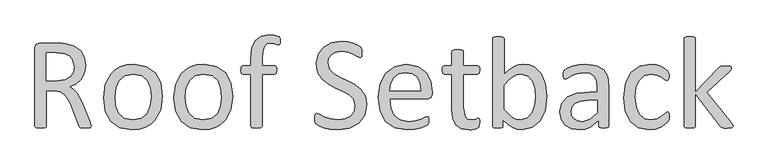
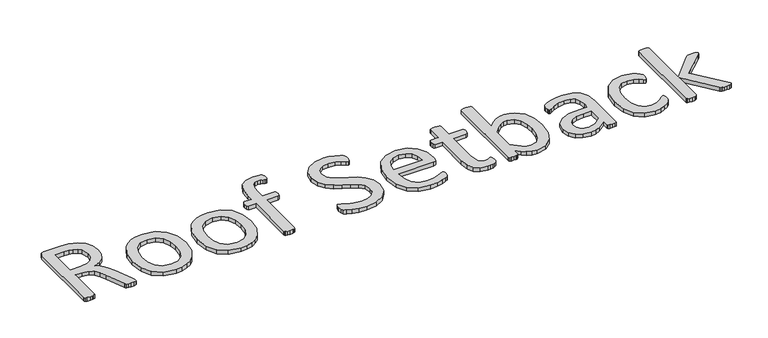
"""IFC4 building model written with IfcOpenShell, lengths in millimetres: proxy geometry, Marker-Setback Bldg Distance : Setback-Roof."""

from ifc_helpers import new_model, si_unit, origin, origin_with_axes, place, context, project, spatial, polyline, outline, extrude, source, transform, mapped, element, save


def generic_models_324ab79a(model_context):
    return source(origin(), model_context, "Body", "SweptSolid", [
        extrude(outline(polyline([(3169.9485923, 52.1269423), (3169.4962299, 50.015918), (3167.5058356, 48.477886), (3163.1631569, 47.5430038), (3155.7142568, 47.2414289), (3149.1700814, 47.5430038), (3145.0686627, 48.538201), (3142.686221, 50.4381229), (3141.2386614, 53.5141869), (3122.8425923, 99.9567221), (3116.177787, 114.4926324), (3108.0955795, 125.9223213), (3097.0880956, 133.3712214), (3081.8284054, 136.0250805), (3064.457691, 136.0250805), (3064.457691, 52.1269423), (3063.7640687, 49.9857605), (3061.5625719, 48.538201), (3057.4611532, 47.6334763), (3050.9471353, 47.2414289), (3044.4331174, 47.6334763), (3040.2713837, 48.5683585), (3038.0698869, 50.015918), (3037.4365796, 52.1872573), (3037.4365796, 237.1733032), (3040.5428011, 245.587243), (3047.2076065, 247.9696848), (3089.0662031, 247.9696848), (3101.4307742, 247.5776374), (3110.3573913, 246.7030702), (3130.5327524, 240.3699972), (3145.2496077, 229.3323557), (3154.1460673, 214.0123506), (3157.1015014, 195.0131317), (3154.4777997, 176.9186375), (3146.8781121, 162.7747745), (3134.9659035, 152.1593379), (3119.4046384, 144.5294928), (3128.3915706, 139.0709871), (3135.9007857, 131.1697246), (3142.4449611, 120.5844455), (3148.6574041, 107.0738898), (3166.5709534, 63.3455288), (3169.3454425, 55.6252112), (3169.9485923, 52.1269423)]), holes=[polyline([(3130.08039, 192.1180126), (3124.9234592, 211.4791214), (3118.0098545, 218.2796355), (3107.5829022, 222.8786528), (3099.0181749, 224.3563698), (3086.4726589, 224.8087322), (3064.457691, 224.8087322), (3064.457691, 159.1860331), (3089.9709278, 159.1860331), (3107.8241621, 161.6589473), (3120.3696781, 168.5951701), (3127.7281058, 179.0598193), (3130.08039, 192.1180126)])]), origin_with_axes(), (0.0, 0.0, 1.0), 10.0),
        extrude(outline(polyline([(3338.5289634, 122.09232), (3334.0656548, 90.4571126), (3320.7058866, 65.5470256), (3310.6935998, 56.2359004), (3298.4496587, 49.2318233), (3284.026839, 44.8439084), (3267.4779161, 43.3812701), (3237.6220007, 48.538201), (3216.3911274, 63.5264737), (3203.7249815, 87.4112061), (3199.5632478, 119.2575159), (3203.9662414, 150.8927233), (3217.2355372, 175.7726528), (3227.2101271, 185.0460811), (3239.4012926, 191.9973827), (3253.8090336, 196.3400613), (3270.4333502, 197.7876208), (3300.3194231, 192.6306899), (3321.5502963, 177.6424172), (3334.2767573, 153.7576849), (3338.5289634, 122.09232)]), holes=[polyline([(3311.507852, 120.2828706), (3309.4269852, 141.2423264), (3302.5812349, 158.5527258), (3289.7039865, 170.3141471), (3269.4079955, 174.6266682), (3250.1373592, 170.676037), (3236.8680634, 159.5177655), (3229.1175884, 142.448626), (3226.5843592, 120.8860204), (3228.665226, 99.8059346), (3235.5712913, 82.5558501), (3248.5390122, 70.8547439), (3268.8048457, 66.5422227), (3288.0151671, 70.492854), (3301.3749353, 81.5606529), (3309.0650953, 98.5694775), (3311.507852, 120.2828706)])]), origin_with_axes(), (0.0, 0.0, 1.0), 10.0),
        extrude(outline(polyline([(3504.5157904, 122.09232), (3500.0524818, 90.4571126), (3486.6927136, 65.5470256), (3476.6804268, 56.2359004), (3464.4364857, 49.2318233), (3450.0136659, 44.8439084), (3433.4647431, 43.3812701), (3403.6088276, 48.538201), (3382.3779544, 63.5264737), (3369.7118085, 87.4112061), (3365.5500748, 119.2575159), (3369.9530684, 150.8927233), (3383.2223641, 175.7726528), (3393.1969541, 185.0460811), (3405.3881196, 191.9973827), (3419.7958606, 196.3400613), (3436.4201771, 197.7876208), (3466.3062501, 192.6306899), (3487.5371233, 177.6424172), (3500.2635842, 153.7576849), (3504.5157904, 122.09232)]), holes=[polyline([(3477.494679, 120.2828706), (3475.4138122, 141.2423264), (3468.5680619, 158.5527258), (3455.6908135, 170.3141471), (3435.3948225, 174.6266682), (3416.1241861, 170.676037), (3402.8548904, 159.5177655), (3395.1044153, 142.448626), (3392.5711861, 120.8860204), (3394.652053, 99.8059346), (3401.5581183, 82.5558501), (3414.5258391, 70.8547439), (3434.7916727, 66.5422227), (3454.001994, 70.492854), (3467.3617623, 81.5606529), (3475.0519223, 98.5694775), (3477.494679, 120.2828706)])]), origin_with_axes(), (0.0, 0.0, 1.0), 10.0),
        extrude(outline(polyline([(3616.4603946, 252.4933083), (3616.1588197, 248.1204722), (3615.4953549, 245.3761406), (3614.5303152, 243.8984236), (3610.4288965, 244.1999985), (3606.5988953, 245.7380305), (3601.291177, 247.2760625), (3594.2041667, 247.9696848), (3584.7648722, 245.8888179), (3578.4921142, 239.4049575), (3575.0541603, 227.9752687), (3573.9986482, 210.8759716), (3573.9986482, 193.927462), (3603.8545636, 193.927462), (3605.844958, 193.4449422), (3607.3528325, 191.7561227), (3608.3781872, 188.7102162), (3608.7400771, 184.2167501), (3607.4131475, 176.88848), (3603.8545636, 174.6266682), (3573.9986482, 174.6266682), (3573.9986482, 52.0666274), (3573.3351834, 49.955603), (3571.1336866, 48.477886), (3567.0021104, 47.5430038), (3560.4880925, 47.2414289), (3553.9740746, 47.5430038), (3549.8424984, 48.477886), (3547.6410016, 49.955603), (3546.9775368, 52.0666274), (3546.9775368, 174.6266682), (3528.4608377, 174.6266682), (3524.9927263, 176.88848), (3523.8165842, 184.2167501), (3524.1181591, 188.7102162), (3524.9927263, 191.7561227), (3526.4402859, 193.4449422), (3528.4608377, 193.927462), (3546.9775368, 193.927462), (3546.9775368, 209.1268372), (3549.6917109, 235.4844838), (3557.9548633, 253.5488205), (3571.9177813, 263.9229972), (3591.7312525, 267.2704786), (3602.2562167, 266.3657539), (3610.1273216, 264.405517), (3613.836693, 262.5055951), (3615.374725, 260.3040983), (3616.2191347, 257.0470894), (3616.4603946, 252.4933083)])), origin_with_axes(), (0.0, 0.0, 1.0), 10.0),
        extrude(outline(polyline([(3821.0488092, 103.153416), (3815.8617209, 77.8211241), (3801.416283, 58.9726927), (3779.6727325, 47.3017439), (3752.7722511, 43.3812701), (3734.074607, 44.8891447), (3718.694287, 48.598516), (3707.3550706, 53.152297), (3700.9918401, 57.1632432), (3698.3681384, 61.8074967), (3697.5237287, 69.7389167), (3697.8253036, 75.6196273), (3698.7601858, 79.3893136), (3700.3283753, 81.4098655), (3702.5298721, 81.9828578), (3708.7121576, 79.5702586), (3718.9958619, 74.3228552), (3734.1047645, 69.0151369), (3754.5213855, 66.5422227), (3770.5953279, 68.894507), (3783.1106864, 75.5291549), (3791.1928938, 86.0239615), (3794.0276979, 100.197982), (3790.0469092, 114.9148373), (3779.58226, 125.6207464), (3764.7749322, 134.0648437), (3747.7057927, 141.9057912), (3730.7271256, 150.7419358), (3715.9801128, 162.1414672), (3705.4249912, 177.5821023), (3701.3838875, 198.7526605), (3705.9979835, 221.4009358), (3718.8149169, 238.0478704), (3738.3569707, 248.3014172), (3762.8448528, 251.8298435), (3776.385566, 250.5330714), (3789.2024994, 247.0951175), (3799.938566, 242.3000766), (3806.1208515, 238.0177129), (3808.0509309, 235.5146412), (3808.8350257, 233.282987), (3809.3175455, 229.9958205), (3809.4683329, 225.0499921), (3809.227073, 219.9232187), (3808.5334507, 216.1836899), (3807.2065212, 213.9520356), (3805.2462843, 213.2282559), (3799.817936, 215.5805401), (3790.7706889, 220.8581009), (3778.104543, 226.2261342), (3761.6988682, 228.6688909), (3746.9518554, 226.4673941), (3736.5776787, 220.616841), (3730.4557082, 211.9314838), (3728.4049988, 201.2858897), (3732.3254726, 186.7499793), (3742.7901218, 175.9535978), (3757.6577645, 167.3285555), (3774.6364316, 159.4272931), (3791.6452561, 150.6514634), (3806.5128989, 139.372562), (3817.037863, 124.0525569), (3821.0488092, 103.153416)])), origin_with_axes(), (0.0, 0.0, 1.0), 10.0),
        extrude(outline(polyline([(3975.4551599, 127.7619282), (3972.4695684, 119.2575159), (3965.6238181, 116.7242867), (3875.091032, 116.7242867), (3877.3528438, 94.4077438), (3884.8620589, 77.3989193), (3898.5535595, 66.4819078), (3919.1812829, 62.682064), (3936.3107374, 64.4613559), (3949.3387733, 68.4723021), (3958.3558629, 72.4832483), (3963.6937387, 74.2625403), (3965.5635031, 73.7498629), (3966.8602752, 72.2419884), (3967.52374, 69.4373418), (3967.7348424, 65.0343482), (3967.5840549, 61.8074967), (3967.1920076, 59.36474), (3966.4380703, 57.4045032), (3965.0809832, 55.7458412), (3960.1653123, 52.8205646), (3949.5800332, 48.6588309), (3934.501288, 45.0097746), (3916.2258488, 43.3812701), (3886.7619808, 48.2064686), (3865.50095, 62.561434), (3852.4729142, 86.4763239), (3848.0699206, 119.8606657), (3852.6840166, 152.4307553), (3865.9834699, 176.9186375), (3886.9730832, 192.38943), (3914.5370294, 197.7876208), (3942.2819205, 192.570375), (3961.130352, 178.5169845), (3971.9870485, 157.7987886), (3975.4551599, 132.4061817), (3975.4551599, 127.7619282)]), holes=[polyline([(3948.4340486, 136.0250805), (3946.481351, 153.7350668), (3939.7788488, 167.1777681), (3928.492408, 175.6595622), (3912.7878949, 178.486827), (3896.7139526, 174.9885581), (3885.1636338, 165.6698936), (3877.9559936, 152.1291804), (3875.091032, 136.0250805), (3948.4340486, 136.0250805)])]), origin_with_axes(), (0.0, 0.0, 1.0), 10.0),
        extrude(outline(polyline([(4087.3997642, 61.1138745), (4086.7966143, 53.5745019), (4084.9570074, 49.4730832), (4081.2777936, 47.000169), (4075.6986579, 45.1002471), (4069.0338525, 43.86379), (4062.0071573, 43.3812701), (4043.6412456, 46.3065467), (4031.1258871, 55.1426914), (4024.0087194, 70.1309641), (4021.7770651, 91.5729397), (4021.7770651, 174.6266682), (4003.441311, 174.6266682), (3999.9128846, 176.88848), (3998.6161125, 184.2167501), (3998.9780024, 188.7102162), (3999.9128846, 191.7561227), (4001.4509166, 193.4449422), (4003.5619409, 193.927462), (4021.7770651, 193.927462), (4021.7770651, 227.5229063), (4022.3500574, 229.5434582), (4024.4912393, 231.2021201), (4028.6529729, 232.2274748), (4035.2273058, 232.5290497), (4041.9222687, 232.2274748), (4045.9935299, 231.2021201), (4048.1347117, 229.5434582), (4048.7981765, 227.5229063), (4048.7981765, 193.927462), (4082.5745657, 193.927462), (4084.5951175, 193.4449422), (4086.1331496, 191.7561227), (4087.0981892, 188.7102162), (4087.3997642, 184.2167501), (4086.0728346, 176.88848), (4082.5745657, 174.6266682), (4048.7981765, 174.6266682), (4048.7981765, 95.9759333), (4052.8091227, 73.9911229), (4058.4108765, 68.4044478), (4067.1942456, 66.5422227), (4073.1955862, 67.235845), (4077.8699972, 68.6834045), (4081.3984236, 70.1611216), (4084.0221252, 70.8849013), (4086.4347245, 69.0151369), (4087.0981892, 65.9993879), (4087.3997642, 61.1138745)])), origin_with_axes(), (0.0, 0.0, 1.0), 10.0),
        extrude(outline(polyline([(4245.6662736, 122.3938949), (4241.8061148, 89.5222304), (4230.436741, 64.6121434), (4211.9803568, 48.8397759), (4186.9194824, 43.3812701), (4174.8564862, 44.7081997), (4163.9997897, 49.0207208), (4153.3843531, 56.5299359), (4142.1657667, 67.4469474), (4142.1657667, 51.7047375), (4141.5023019, 49.6841856), (4139.36112, 48.3270986), (4135.6819062, 47.5430038), (4130.0424555, 47.2414289), (4124.4934773, 47.5430038), (4120.723791, 48.3874135), (4118.7635541, 49.8651306), (4118.2810343, 52.0063124), (4118.2810343, 258.4644914), (4118.8540266, 260.6358307), (4120.9952084, 262.1738627), (4125.1569421, 263.1087449), (4131.731275, 263.4103198), (4138.4262378, 263.1087449), (4142.497499, 262.1738627), (4144.6386809, 260.6056732), (4145.3021457, 258.4644914), (4145.3021457, 174.6869832), (4157.0334094, 185.4532072), (4168.1615233, 192.570375), (4179.0483774, 196.5511637), (4190.5383812, 197.7876208), (4204.2977362, 196.2646675), (4215.9008306, 191.6958077), (4233.0302851, 175.3806055), (4242.6505245, 151.4054006), (4245.6662736, 122.3938949)]), holes=[polyline([(4218.6451622, 119.4384608), (4217.0769727, 139.9757118), (4211.5883095, 157.6178436), (4201.2442903, 169.9522572), (4185.1703479, 174.6266682), (4175.7612109, 173.2695811), (4166.3219164, 168.7459576), (4156.3397871, 160.6335927), (4145.3021457, 148.1483917), (4145.3021457, 92.1157746), (4164.7838844, 73.0863981), (4174.2684151, 68.1782666), (4184.1449932, 66.5422227), (4200.0379907, 71.1563188), (4210.7740572, 83.3399449), (4216.7753978, 100.3487694), (4218.6451622, 119.4384608)])]), origin_with_axes(), (0.0, 0.0, 1.0), 10.0),
        extrude(outline(polyline([(4392.3523067, 51.8856824), (4391.0253771, 49.0810358), (4387.4064783, 47.6937913), (4380.6512005, 47.2414289), (4373.8054501, 47.6937913), (4370.0960788, 49.0810358), (4368.9500942, 51.8856824), (4368.9500942, 65.758128), (4348.6239457, 49.7143431), (4337.0736269, 44.9645384), (4324.8598433, 43.3812701), (4304.9257422, 46.2462317), (4289.7565245, 54.5395416), (4280.0156551, 67.8691523), (4276.5475437, 85.8430166), (4281.3425847, 106.289795), (4295.0944003, 120.7050754), (4317.0188958, 129.2999602), (4346.2113465, 132.1649218), (4365.3311954, 132.1649218), (4365.3311954, 143.6850831), (4363.6423759, 158.7638283), (4358.2140276, 169.6808398), (4348.5334732, 176.2551727), (4333.9070904, 178.486827), (4317.1696832, 176.0742277), (4304.2019624, 170.7665094), (4294.8832979, 165.4587911), (4289.3343196, 163.0461919), (4287.1629803, 163.6794992), (4285.5646333, 165.6095786), (4284.5694362, 168.9269025), (4284.2678613, 173.3600536), (4284.8106961, 179.6931266), (4287.4645552, 184.1262777), (4294.7023529, 188.6499012), (4306.5240891, 193.1132098), (4321.150472, 196.4606912), (4337.1640994, 197.7876208), (4362.7979662, 194.3798244), (4379.8972632, 184.4278526), (4389.3968727, 168.1729653), (4392.3523067, 145.4945325), (4392.3523067, 51.8856824)]), holes=[polyline([(4365.3311954, 112.8641279), (4343.8590622, 112.8641279), (4325.9455129, 111.084836), (4313.3095245, 105.8374327), (4305.9209393, 97.5139653), (4303.5686551, 86.3255364), (4305.2574745, 76.584667), (4310.3239329, 69.0754519), (4318.4362978, 64.280411), (4329.2628369, 62.682064), (4347.598591, 67.7786798), (4365.3311954, 83.3701024), (4365.3311954, 112.8641279)])]), origin_with_axes(), (0.0, 0.0, 1.0), 10.0),
        extrude(outline(polyline([(4535.1781811, 74.98632), (4535.0273936, 70.7642714), (4534.4845588, 67.7485223), (4533.5798341, 65.3057656), (4531.1672349, 61.6868668), (4524.6833744, 55.8061562), (4514.3996702, 49.5635557), (4502.0049417, 45.1002471), (4488.1324961, 43.3812701), (4461.9557945, 48.3874135), (4442.8661031, 63.0137964), (4431.1348393, 86.5969538), (4427.0937356, 118.835311), (4432.039564, 154.5719371), (4445.5802772, 179.0296618), (4465.8159532, 193.1735248), (4491.0276152, 197.7876208), (4503.7540761, 196.4305337), (4515.0932925, 192.8719499), (4524.3214846, 187.8054915), (4530.1720377, 182.8898206), (4532.6751094, 179.6629691), (4533.821094, 177.0995824), (4534.4242438, 173.9330459), (4534.5750313, 169.4998948), (4533.2179442, 161.4780024), (4529.9307778, 159.1860331), (4524.7135319, 161.5986324), (4517.2646318, 166.9063507), (4506.3174628, 172.214069), (4491.2085601, 174.6266682), (4475.3381808, 171.1283993), (4463.6747714, 160.6335927), (4456.5048281, 143.4739807), (4454.114847, 119.9812957), (4456.5877612, 96.6393981), (4463.8858739, 79.8718335), (4475.7377676, 69.8293892), (4491.8117099, 66.5422227), (4506.8602976, 69.5881293), (4518.078884, 76.2830921), (4526.070619, 82.8875825), (4531.1370774, 85.8430166), (4532.9163693, 85.2700243), (4534.2131414, 83.3399449), (4534.9670787, 79.901991), (4535.1781811, 74.98632)])), origin_with_axes(), (0.0, 0.0, 1.0), 10.0),
        extrude(outline(polyline([(4685.724373, 52.1269423), (4685.0910657, 49.9857605), (4683.0101989, 48.4477285), (4678.9389377, 47.5430038), (4672.2741323, 47.2414289), (4665.3982245, 47.4826888), (4660.8142859, 48.2366261), (4657.7985369, 49.7445006), (4655.6875126, 52.1269423), (4596.9407214, 128.0635031), (4596.9407214, 51.9459974), (4596.2772566, 49.8952881), (4594.1360747, 48.4477285), (4590.0648135, 47.5430038), (4583.3698507, 47.2414289), (4576.7955178, 47.5430038), (4572.6337841, 48.477886), (4570.4926023, 49.955603), (4569.91961, 52.0063124), (4569.91961, 258.4644914), (4570.4926023, 260.6358307), (4572.6337841, 262.1738627), (4576.7955178, 263.1087449), (4583.3698507, 263.4103198), (4590.0648135, 263.1087449), (4594.1360747, 262.1738627), (4596.2772566, 260.6056732), (4596.9407214, 258.4041764), (4596.9407214, 131.561772), (4650.6210542, 188.6197437), (4653.3050708, 191.1228154), (4656.6827098, 192.7814774), (4661.3269633, 193.6862021), (4667.8108237, 193.927462), (4674.4454716, 193.6862021), (4678.7579927, 192.9322649), (4681.1404345, 191.5751778), (4681.8642142, 189.3435235), (4680.8087021, 185.6944672), (4677.2802757, 181.442261), (4623.9618327, 131.7427169), (4681.9245292, 59.304425), (4684.8498058, 55.1125339), (4685.724373, 52.1269423)])), origin_with_axes(), (0.0, 0.0, 1.0), 10.0),
    ])


if __name__ == "__main__":
    model = new_model("IFC4")
    model_context = context("Model", 3, world=origin())
    ifc_project = project(units=[si_unit("LENGTHUNIT", "METRE", prefix="MILLI")], contexts=[model_context])
    site = spatial("IfcSite", under=ifc_project)
    building = spatial("IfcBuilding", under=site)
    placement = place(None, origin())
    generic_models_shape = generic_models_324ab79a(model_context)
    element("IfcBuildingElementProxy", 1, Name="Marker-Setback Bldg Distance : Setback-Roof", ObjectType="Marker-Setback Bldg Distance : Setback-Roof", at=placement, inside=building, context=model_context, shape_type="MappedRepresentation", body=[
        mapped(generic_models_shape, transform((0.0, 0.0, 0.0), x_axis=(1.0, 0.0, 0.0), y_axis=(0.0, 1.0, 0.0), z_axis=(0.0, 0.0, 1.0))),
    ])
    save(model, "model.ifc")
